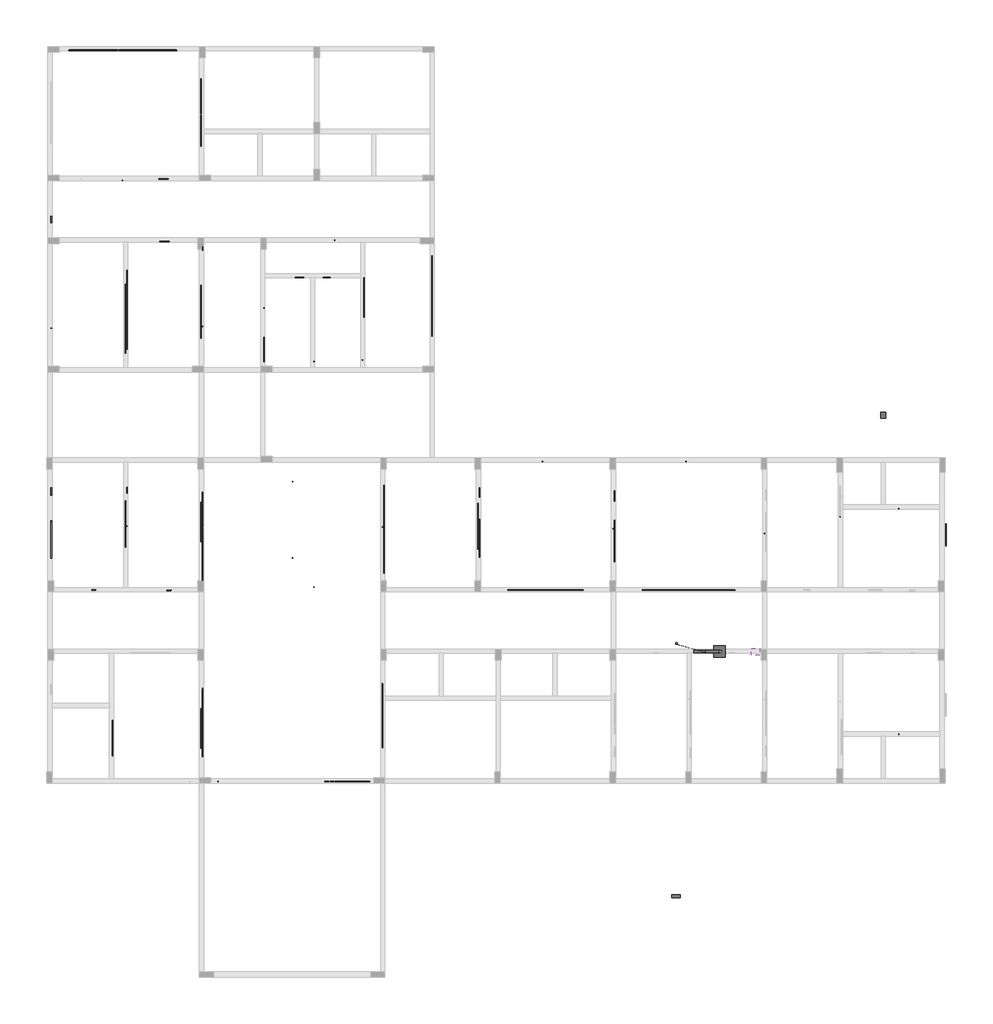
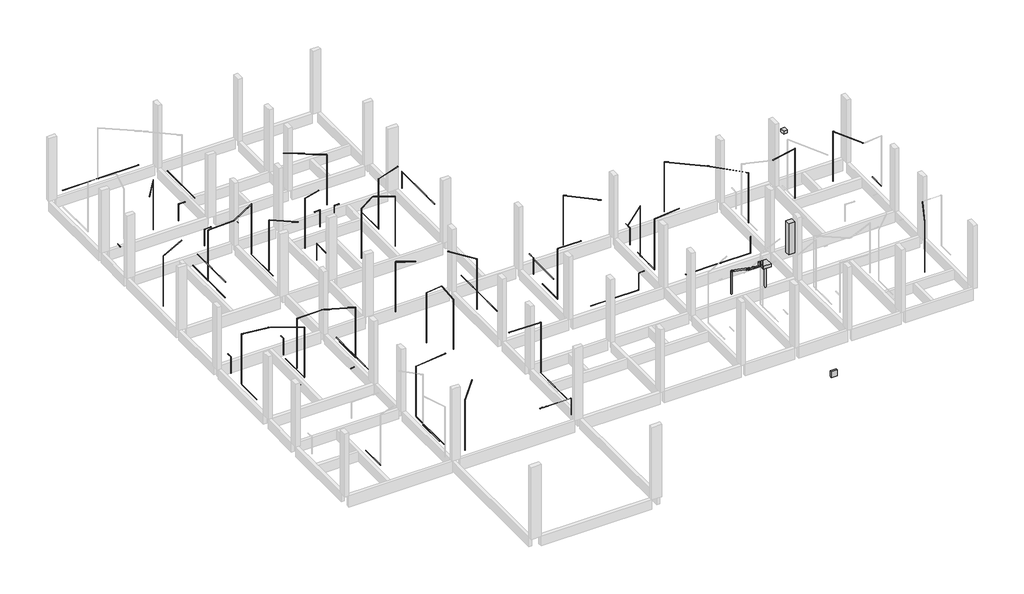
# One storey, part 4 of 4: 88 cable carrier segments, 3 proxies, 1 light fixture.
"""IFC4 building model written with IfcOpenShell, lengths in millimetres."""

from ifc_helpers import new_model, si_unit, origin, place, context, project, spatial, transform, mapped, element, save
from components import al2_al1_c94165ea, cx10_cx23_1a9b8878, qd1_1_qd1_215902_d19d638f, el106_el180_e81ac86b, el107_el181_2fc4830e, el108_el19_bead60b2, el111_el20_c0aca6a8, el112_el21_6166761d, el115_el210_392fa1a4, el116_el212_673bda81, el117_el217_7d4fc841, el119_el218_bef86459, el120_el219_29f7e790, el126_el22_8d276bc7, el127_el220_7d6977bb, el128_el221_22956da2, el130_el222_b0904e21, el136_el23_cfef5686, el137_el232_800fbdec, el138_el233_6ae7f953, el140_el235_33b0d0c4, el146_el237_084dc854, el147_el251_baa3a1ed, el148_el253_b73c1a1b, el149_el254_4117062a, el156_el255_a31909ad, el159_el258_c4cb9bf2, el160_el259_031f7956, el161_el260_be5ef292, el163_el262_63760e00, el164_el27_93b330e2, el165_el278_8a715c29, el166_el28_0edbba57, el167_el33_bbc9469f, el171_el34_def59c32, el183_el342_a1bdfb0c, el184_el343_a1fa0438, el185_el344_8edabc6b, el186_el345_cefd5e52, el187_el347_bbfb40ad, el188_el348_5437adee, el189_el349_dfe210b5, el190_el350_7b75cf25, el192_el352_86c433b4, el197_el36_59999477, el199_el361_34302463, el200_el362_7246fe32, el201_el364_b7d59ef0, el202_el365_db73ed29, el206_el369_4d8f8159, el207_el37_3734109c, el208_el373_a7051450, el209_el374_41653263, el211_el375_b2e2aab6, el223_el38_db877512, el234_el389_417e4c4e, el240_el394_d23c8c79, el241_el395_66daa9e1, el242_el396_39261cf4, el243_el397_140a4e84, el244_el398_b67abc26, el245_el400_6b550e82, el246_el44_65ff09b4, el247_el45_ffb3c4fe, el248_el46_3d92df67, el266_el62_c5358e1e, el267_el63_b8f4bee0, el268_el64_99c406b5, el269_el66_d4b34e1a, el270_el71_9360d52e, el271_el72_d1ce99ee, el272_el74_cc929678, el273_el75_b29c2926, el274_el76_2c5dd4db, el275_el77_9066aecb, el276_el78_759472b1, el277_el79_a86f90d6, el279_el80_b8201097, el280_el86_41604c0a, el281_el87_18f5768c, el282_el89_2b9ef747, el283_el90_8584b409, el284_el91_26a06fd6, el285_el92_8ea3c803, el286_el93_a737a8e3, el287_el94_d5e720ac, el288_el98_92580963, el95_el177_853e290b, el96_el178_324f8018, el97_el179_1835d93a, el99_el18_9592cac1, light_fixture_410ee1c6

model = new_model("IFC4")

# Units and contexts
model_context = context("Model", 3, world=origin())
ifc_project = project(units=[si_unit("LENGTHUNIT", "METRE", prefix="MILLI")], contexts=[model_context])

# Site, building, storey
site = spatial("IfcSite", under=ifc_project)
building = spatial("IfcBuilding", under=site)
storey = spatial("IfcBuildingStorey", under=building, Name="BALDRAME", Elevation=1500.0)

# Proxies
placement = place(None, origin())
al2_al1_shape = al2_al1_c94165ea(model_context)
element("IfcBuildingElementProxy", 1, Name="AL2 : AL1", ObjectType="AL2 : AL1", at=placement, inside=storey, context=model_context, shape_type="MappedRepresentation", body=[
    mapped(al2_al1_shape, transform((0.0, 0.0, 0.0), x_axis=(1.0, 0.0, 0.0), y_axis=(0.0, 1.0, 0.0), z_axis=(0.0, 0.0, 1.0))),
])
cx10_cx23_shape = cx10_cx23_1a9b8878(model_context)
element("IfcBuildingElementProxy", 2, Name="CX10 : CX23", ObjectType="CX10 : CX23", at=placement, inside=storey, context=model_context, shape_type="MappedRepresentation", body=[
    mapped(cx10_cx23_shape, transform((0.0, 0.0, 0.0), x_axis=(1.0, 0.0, 0.0), y_axis=(0.0, 1.0, 0.0), z_axis=(0.0, 0.0, 1.0))),
])
qd1_1_qd1_215902_shape = qd1_1_qd1_215902_d19d638f(model_context)
element("IfcBuildingElementProxy", 3, Name="QD1 1 : QD1 215902", ObjectType="QD1 1 : QD1 215902", at=placement, inside=storey, context=model_context, shape_type="MappedRepresentation", body=[
    mapped(qd1_1_qd1_215902_shape, transform((0.0, 0.0, 0.0), x_axis=(1.0, 0.0, 0.0), y_axis=(0.0, 1.0, 0.0), z_axis=(0.0, 0.0, 1.0))),
])

# Cable carrier segments
el106_el180_shape = el106_el180_e81ac86b(model_context)
element("IfcCableCarrierSegment", 4, ObjectType="El106 : El180", at=placement, inside=storey, context=model_context, shape_type="MappedRepresentation", body=[
    mapped(el106_el180_shape, transform((0.0, 0.0, 0.0), x_axis=(1.0, 0.0, 0.0), y_axis=(0.0, 1.0, 0.0), z_axis=(0.0, 0.0, 1.0))),
])
el107_el181_shape = el107_el181_2fc4830e(model_context)
element("IfcCableCarrierSegment", 5, ObjectType="El107 : El181", at=placement, inside=storey, context=model_context, shape_type="MappedRepresentation", body=[
    mapped(el107_el181_shape, transform((0.0, 0.0, 0.0), x_axis=(1.0, 0.0, 0.0), y_axis=(0.0, 1.0, 0.0), z_axis=(0.0, 0.0, 1.0))),
])
el108_el19_shape = el108_el19_bead60b2(model_context)
element("IfcCableCarrierSegment", 6, ObjectType="El108 : El19", at=placement, inside=storey, context=model_context, shape_type="MappedRepresentation", body=[
    mapped(el108_el19_shape, transform((0.0, 0.0, 0.0), x_axis=(1.0, 0.0, 0.0), y_axis=(0.0, 1.0, 0.0), z_axis=(0.0, 0.0, 1.0))),
])
el111_el20_shape = el111_el20_c0aca6a8(model_context)
element("IfcCableCarrierSegment", 7, ObjectType="El111 : El20", at=placement, inside=storey, context=model_context, shape_type="MappedRepresentation", body=[
    mapped(el111_el20_shape, transform((0.0, 0.0, 0.0), x_axis=(1.0, 0.0, 0.0), y_axis=(0.0, 1.0, 0.0), z_axis=(0.0, 0.0, 1.0))),
])
el112_el21_shape = el112_el21_6166761d(model_context)
element("IfcCableCarrierSegment", 8, ObjectType="El112 : El21", at=placement, inside=storey, context=model_context, shape_type="MappedRepresentation", body=[
    mapped(el112_el21_shape, transform((0.0, 0.0, 0.0), x_axis=(1.0, 0.0, 0.0), y_axis=(0.0, 1.0, 0.0), z_axis=(0.0, 0.0, 1.0))),
])
el115_el210_shape = el115_el210_392fa1a4(model_context)
element("IfcCableCarrierSegment", 9, ObjectType="El115 : El210", at=placement, inside=storey, context=model_context, shape_type="MappedRepresentation", body=[
    mapped(el115_el210_shape, transform((0.0, 0.0, 0.0), x_axis=(1.0, 0.0, 0.0), y_axis=(0.0, 1.0, 0.0), z_axis=(0.0, 0.0, 1.0))),
])
el116_el212_shape = el116_el212_673bda81(model_context)
element("IfcCableCarrierSegment", 10, ObjectType="El116 : El212", at=placement, inside=storey, context=model_context, shape_type="MappedRepresentation", body=[
    mapped(el116_el212_shape, transform((0.0, 0.0, 0.0), x_axis=(1.0, 0.0, 0.0), y_axis=(0.0, 1.0, 0.0), z_axis=(0.0, 0.0, 1.0))),
])
el117_el217_shape = el117_el217_7d4fc841(model_context)
element("IfcCableCarrierSegment", 11, ObjectType="El117 : El217", at=placement, inside=storey, context=model_context, shape_type="MappedRepresentation", body=[
    mapped(el117_el217_shape, transform((0.0, 0.0, 0.0), x_axis=(1.0, 0.0, 0.0), y_axis=(0.0, 1.0, 0.0), z_axis=(0.0, 0.0, 1.0))),
])
el119_el218_shape = el119_el218_bef86459(model_context)
element("IfcCableCarrierSegment", 12, ObjectType="El119 : El218", at=placement, inside=storey, context=model_context, shape_type="MappedRepresentation", body=[
    mapped(el119_el218_shape, transform((0.0, 0.0, 0.0), x_axis=(1.0, 0.0, 0.0), y_axis=(0.0, 1.0, 0.0), z_axis=(0.0, 0.0, 1.0))),
])
el120_el219_shape = el120_el219_29f7e790(model_context)
element("IfcCableCarrierSegment", 13, ObjectType="El120 : El219", at=placement, inside=storey, context=model_context, shape_type="MappedRepresentation", body=[
    mapped(el120_el219_shape, transform((0.0, 0.0, 0.0), x_axis=(1.0, 0.0, 0.0), y_axis=(0.0, 1.0, 0.0), z_axis=(0.0, 0.0, 1.0))),
])
el126_el22_shape = el126_el22_8d276bc7(model_context)
element("IfcCableCarrierSegment", 14, ObjectType="El126 : El22", at=placement, inside=storey, context=model_context, shape_type="MappedRepresentation", body=[
    mapped(el126_el22_shape, transform((0.0, 0.0, 0.0), x_axis=(1.0, 0.0, 0.0), y_axis=(0.0, 1.0, 0.0), z_axis=(0.0, 0.0, 1.0))),
])
el127_el220_shape = el127_el220_7d6977bb(model_context)
element("IfcCableCarrierSegment", 15, ObjectType="El127 : El220", at=placement, inside=storey, context=model_context, shape_type="MappedRepresentation", body=[
    mapped(el127_el220_shape, transform((0.0, 0.0, 0.0), x_axis=(1.0, 0.0, 0.0), y_axis=(0.0, 1.0, 0.0), z_axis=(0.0, 0.0, 1.0))),
])
el128_el221_shape = el128_el221_22956da2(model_context)
element("IfcCableCarrierSegment", 16, ObjectType="El128 : El221", at=placement, inside=storey, context=model_context, shape_type="MappedRepresentation", body=[
    mapped(el128_el221_shape, transform((0.0, 0.0, 0.0), x_axis=(1.0, 0.0, 0.0), y_axis=(0.0, 1.0, 0.0), z_axis=(0.0, 0.0, 1.0))),
])
el130_el222_shape = el130_el222_b0904e21(model_context)
element("IfcCableCarrierSegment", 17, ObjectType="El130 : El222", at=placement, inside=storey, context=model_context, shape_type="MappedRepresentation", body=[
    mapped(el130_el222_shape, transform((0.0, 0.0, 0.0), x_axis=(1.0, 0.0, 0.0), y_axis=(0.0, 1.0, 0.0), z_axis=(0.0, 0.0, 1.0))),
])
el136_el23_shape = el136_el23_cfef5686(model_context)
element("IfcCableCarrierSegment", 18, ObjectType="El136 : El23", at=placement, inside=storey, context=model_context, shape_type="MappedRepresentation", body=[
    mapped(el136_el23_shape, transform((0.0, 0.0, 0.0), x_axis=(1.0, 0.0, 0.0), y_axis=(0.0, 1.0, 0.0), z_axis=(0.0, 0.0, 1.0))),
])
el137_el232_shape = el137_el232_800fbdec(model_context)
element("IfcCableCarrierSegment", 19, ObjectType="El137 : El232", at=placement, inside=storey, context=model_context, shape_type="MappedRepresentation", body=[
    mapped(el137_el232_shape, transform((0.0, 0.0, 0.0), x_axis=(1.0, 0.0, 0.0), y_axis=(0.0, 1.0, 0.0), z_axis=(0.0, 0.0, 1.0))),
])
el138_el233_shape = el138_el233_6ae7f953(model_context)
element("IfcCableCarrierSegment", 20, ObjectType="El138 : El233", at=placement, inside=storey, context=model_context, shape_type="MappedRepresentation", body=[
    mapped(el138_el233_shape, transform((0.0, 0.0, 0.0), x_axis=(1.0, 0.0, 0.0), y_axis=(0.0, 1.0, 0.0), z_axis=(0.0, 0.0, 1.0))),
])
el140_el235_shape = el140_el235_33b0d0c4(model_context)
element("IfcCableCarrierSegment", 21, ObjectType="El140 : El235", at=placement, inside=storey, context=model_context, shape_type="MappedRepresentation", body=[
    mapped(el140_el235_shape, transform((0.0, 0.0, 0.0), x_axis=(1.0, 0.0, 0.0), y_axis=(0.0, 1.0, 0.0), z_axis=(0.0, 0.0, 1.0))),
])
el146_el237_shape = el146_el237_084dc854(model_context)
element("IfcCableCarrierSegment", 22, ObjectType="El146 : El237", at=placement, inside=storey, context=model_context, shape_type="MappedRepresentation", body=[
    mapped(el146_el237_shape, transform((0.0, 0.0, 0.0), x_axis=(1.0, 0.0, 0.0), y_axis=(0.0, 1.0, 0.0), z_axis=(0.0, 0.0, 1.0))),
])
el147_el251_shape = el147_el251_baa3a1ed(model_context)
element("IfcCableCarrierSegment", 23, ObjectType="El147 : El251", at=placement, inside=storey, context=model_context, shape_type="MappedRepresentation", body=[
    mapped(el147_el251_shape, transform((0.0, 0.0, 0.0), x_axis=(1.0, 0.0, 0.0), y_axis=(0.0, 1.0, 0.0), z_axis=(0.0, 0.0, 1.0))),
])
el148_el253_shape = el148_el253_b73c1a1b(model_context)
element("IfcCableCarrierSegment", 24, ObjectType="El148 : El253", at=placement, inside=storey, context=model_context, shape_type="MappedRepresentation", body=[
    mapped(el148_el253_shape, transform((0.0, 0.0, 0.0), x_axis=(1.0, 0.0, 0.0), y_axis=(0.0, 1.0, 0.0), z_axis=(0.0, 0.0, 1.0))),
])
el149_el254_shape = el149_el254_4117062a(model_context)
element("IfcCableCarrierSegment", 25, ObjectType="El149 : El254", at=placement, inside=storey, context=model_context, shape_type="MappedRepresentation", body=[
    mapped(el149_el254_shape, transform((0.0, 0.0, 0.0), x_axis=(1.0, 0.0, 0.0), y_axis=(0.0, 1.0, 0.0), z_axis=(0.0, 0.0, 1.0))),
])
el156_el255_shape = el156_el255_a31909ad(model_context)
element("IfcCableCarrierSegment", 26, ObjectType="El156 : El255", at=placement, inside=storey, context=model_context, shape_type="MappedRepresentation", body=[
    mapped(el156_el255_shape, transform((0.0, 0.0, 0.0), x_axis=(1.0, 0.0, 0.0), y_axis=(0.0, 1.0, 0.0), z_axis=(0.0, 0.0, 1.0))),
])
el159_el258_shape = el159_el258_c4cb9bf2(model_context)
element("IfcCableCarrierSegment", 27, ObjectType="El159 : El258", at=placement, inside=storey, context=model_context, shape_type="MappedRepresentation", body=[
    mapped(el159_el258_shape, transform((0.0, 0.0, 0.0), x_axis=(1.0, 0.0, 0.0), y_axis=(0.0, 1.0, 0.0), z_axis=(0.0, 0.0, 1.0))),
])
el160_el259_shape = el160_el259_031f7956(model_context)
element("IfcCableCarrierSegment", 28, ObjectType="El160 : El259", at=placement, inside=storey, context=model_context, shape_type="MappedRepresentation", body=[
    mapped(el160_el259_shape, transform((0.0, 0.0, 0.0), x_axis=(1.0, 0.0, 0.0), y_axis=(0.0, 1.0, 0.0), z_axis=(0.0, 0.0, 1.0))),
])
el161_el260_shape = el161_el260_be5ef292(model_context)
element("IfcCableCarrierSegment", 29, ObjectType="El161 : El260", at=placement, inside=storey, context=model_context, shape_type="MappedRepresentation", body=[
    mapped(el161_el260_shape, transform((0.0, 0.0, 0.0), x_axis=(1.0, 0.0, 0.0), y_axis=(0.0, 1.0, 0.0), z_axis=(0.0, 0.0, 1.0))),
])
el163_el262_shape = el163_el262_63760e00(model_context)
element("IfcCableCarrierSegment", 30, ObjectType="El163 : El262", at=placement, inside=storey, context=model_context, shape_type="MappedRepresentation", body=[
    mapped(el163_el262_shape, transform((0.0, 0.0, 0.0), x_axis=(1.0, 0.0, 0.0), y_axis=(0.0, 1.0, 0.0), z_axis=(0.0, 0.0, 1.0))),
])
el164_el27_shape = el164_el27_93b330e2(model_context)
element("IfcCableCarrierSegment", 31, ObjectType="El164 : El27", at=placement, inside=storey, context=model_context, shape_type="MappedRepresentation", body=[
    mapped(el164_el27_shape, transform((0.0, 0.0, 0.0), x_axis=(1.0, 0.0, 0.0), y_axis=(0.0, 1.0, 0.0), z_axis=(0.0, 0.0, 1.0))),
])
el165_el278_shape = el165_el278_8a715c29(model_context)
element("IfcCableCarrierSegment", 32, ObjectType="El165 : El278", at=placement, inside=storey, context=model_context, shape_type="MappedRepresentation", body=[
    mapped(el165_el278_shape, transform((0.0, 0.0, 0.0), x_axis=(1.0, 0.0, 0.0), y_axis=(0.0, 1.0, 0.0), z_axis=(0.0, 0.0, 1.0))),
])
el166_el28_shape = el166_el28_0edbba57(model_context)
element("IfcCableCarrierSegment", 33, ObjectType="El166 : El28", at=placement, inside=storey, context=model_context, shape_type="MappedRepresentation", body=[
    mapped(el166_el28_shape, transform((0.0, 0.0, 0.0), x_axis=(1.0, 0.0, 0.0), y_axis=(0.0, 1.0, 0.0), z_axis=(0.0, 0.0, 1.0))),
])
el167_el33_shape = el167_el33_bbc9469f(model_context)
element("IfcCableCarrierSegment", 34, ObjectType="El167 : El33", at=placement, inside=storey, context=model_context, shape_type="MappedRepresentation", body=[
    mapped(el167_el33_shape, transform((0.0, 0.0, 0.0), x_axis=(1.0, 0.0, 0.0), y_axis=(0.0, 1.0, 0.0), z_axis=(0.0, 0.0, 1.0))),
])
el171_el34_shape = el171_el34_def59c32(model_context)
element("IfcCableCarrierSegment", 35, ObjectType="El171 : El34", at=placement, inside=storey, context=model_context, shape_type="MappedRepresentation", body=[
    mapped(el171_el34_shape, transform((0.0, 0.0, 0.0), x_axis=(1.0, 0.0, 0.0), y_axis=(0.0, 1.0, 0.0), z_axis=(0.0, 0.0, 1.0))),
])
el183_el342_shape = el183_el342_a1bdfb0c(model_context)
element("IfcCableCarrierSegment", 36, ObjectType="El183 : El342", at=placement, inside=storey, context=model_context, shape_type="MappedRepresentation", body=[
    mapped(el183_el342_shape, transform((0.0, 0.0, 0.0), x_axis=(1.0, 0.0, 0.0), y_axis=(0.0, 1.0, 0.0), z_axis=(0.0, 0.0, 1.0))),
])
el184_el343_shape = el184_el343_a1fa0438(model_context)
element("IfcCableCarrierSegment", 37, ObjectType="El184 : El343", at=placement, inside=storey, context=model_context, shape_type="MappedRepresentation", body=[
    mapped(el184_el343_shape, transform((0.0, 0.0, 0.0), x_axis=(1.0, 0.0, 0.0), y_axis=(0.0, 1.0, 0.0), z_axis=(0.0, 0.0, 1.0))),
])
el185_el344_shape = el185_el344_8edabc6b(model_context)
element("IfcCableCarrierSegment", 38, ObjectType="El185 : El344", at=placement, inside=storey, context=model_context, shape_type="MappedRepresentation", body=[
    mapped(el185_el344_shape, transform((0.0, 0.0, 0.0), x_axis=(1.0, 0.0, 0.0), y_axis=(0.0, 1.0, 0.0), z_axis=(0.0, 0.0, 1.0))),
])
el186_el345_shape = el186_el345_cefd5e52(model_context)
element("IfcCableCarrierSegment", 39, ObjectType="El186 : El345", at=placement, inside=storey, context=model_context, shape_type="MappedRepresentation", body=[
    mapped(el186_el345_shape, transform((0.0, 0.0, 0.0), x_axis=(1.0, 0.0, 0.0), y_axis=(0.0, 1.0, 0.0), z_axis=(0.0, 0.0, 1.0))),
])
el187_el347_shape = el187_el347_bbfb40ad(model_context)
element("IfcCableCarrierSegment", 40, ObjectType="El187 : El347", at=placement, inside=storey, context=model_context, shape_type="MappedRepresentation", body=[
    mapped(el187_el347_shape, transform((0.0, 0.0, 0.0), x_axis=(1.0, 0.0, 0.0), y_axis=(0.0, 1.0, 0.0), z_axis=(0.0, 0.0, 1.0))),
])
el188_el348_shape = el188_el348_5437adee(model_context)
element("IfcCableCarrierSegment", 41, ObjectType="El188 : El348", at=placement, inside=storey, context=model_context, shape_type="MappedRepresentation", body=[
    mapped(el188_el348_shape, transform((0.0, 0.0, 0.0), x_axis=(1.0, 0.0, 0.0), y_axis=(0.0, 1.0, 0.0), z_axis=(0.0, 0.0, 1.0))),
])
el189_el349_shape = el189_el349_dfe210b5(model_context)
element("IfcCableCarrierSegment", 42, ObjectType="El189 : El349", at=placement, inside=storey, context=model_context, shape_type="MappedRepresentation", body=[
    mapped(el189_el349_shape, transform((0.0, 0.0, 0.0), x_axis=(1.0, 0.0, 0.0), y_axis=(0.0, 1.0, 0.0), z_axis=(0.0, 0.0, 1.0))),
])
el190_el350_shape = el190_el350_7b75cf25(model_context)
element("IfcCableCarrierSegment", 43, ObjectType="El190 : El350", at=placement, inside=storey, context=model_context, shape_type="MappedRepresentation", body=[
    mapped(el190_el350_shape, transform((0.0, 0.0, 0.0), x_axis=(1.0, 0.0, 0.0), y_axis=(0.0, 1.0, 0.0), z_axis=(0.0, 0.0, 1.0))),
])
el192_el352_shape = el192_el352_86c433b4(model_context)
element("IfcCableCarrierSegment", 44, ObjectType="El192 : El352", at=placement, inside=storey, context=model_context, shape_type="MappedRepresentation", body=[
    mapped(el192_el352_shape, transform((0.0, 0.0, 0.0), x_axis=(1.0, 0.0, 0.0), y_axis=(0.0, 1.0, 0.0), z_axis=(0.0, 0.0, 1.0))),
])
el197_el36_shape = el197_el36_59999477(model_context)
element("IfcCableCarrierSegment", 45, ObjectType="El197 : El36", at=placement, inside=storey, context=model_context, shape_type="MappedRepresentation", body=[
    mapped(el197_el36_shape, transform((0.0, 0.0, 0.0), x_axis=(1.0, 0.0, 0.0), y_axis=(0.0, 1.0, 0.0), z_axis=(0.0, 0.0, 1.0))),
])
el199_el361_shape = el199_el361_34302463(model_context)
element("IfcCableCarrierSegment", 46, ObjectType="El199 : El361", at=placement, inside=storey, context=model_context, shape_type="MappedRepresentation", body=[
    mapped(el199_el361_shape, transform((0.0, 0.0, 0.0), x_axis=(1.0, 0.0, 0.0), y_axis=(0.0, 1.0, 0.0), z_axis=(0.0, 0.0, 1.0))),
])
el200_el362_shape = el200_el362_7246fe32(model_context)
element("IfcCableCarrierSegment", 47, ObjectType="El200 : El362", at=placement, inside=storey, context=model_context, shape_type="MappedRepresentation", body=[
    mapped(el200_el362_shape, transform((0.0, 0.0, 0.0), x_axis=(1.0, 0.0, 0.0), y_axis=(0.0, 1.0, 0.0), z_axis=(0.0, 0.0, 1.0))),
])
el201_el364_shape = el201_el364_b7d59ef0(model_context)
element("IfcCableCarrierSegment", 48, ObjectType="El201 : El364", at=placement, inside=storey, context=model_context, shape_type="MappedRepresentation", body=[
    mapped(el201_el364_shape, transform((0.0, 0.0, 0.0), x_axis=(1.0, 0.0, 0.0), y_axis=(0.0, 1.0, 0.0), z_axis=(0.0, 0.0, 1.0))),
])
el202_el365_shape = el202_el365_db73ed29(model_context)
element("IfcCableCarrierSegment", 49, ObjectType="El202 : El365", at=placement, inside=storey, context=model_context, shape_type="MappedRepresentation", body=[
    mapped(el202_el365_shape, transform((0.0, 0.0, 0.0), x_axis=(1.0, 0.0, 0.0), y_axis=(0.0, 1.0, 0.0), z_axis=(0.0, 0.0, 1.0))),
])
el206_el369_shape = el206_el369_4d8f8159(model_context)
element("IfcCableCarrierSegment", 50, ObjectType="El206 : El369", at=placement, inside=storey, context=model_context, shape_type="MappedRepresentation", body=[
    mapped(el206_el369_shape, transform((0.0, 0.0, 0.0), x_axis=(1.0, 0.0, 0.0), y_axis=(0.0, 1.0, 0.0), z_axis=(0.0, 0.0, 1.0))),
])
el207_el37_shape = el207_el37_3734109c(model_context)
element("IfcCableCarrierSegment", 51, ObjectType="El207 : El37", at=placement, inside=storey, context=model_context, shape_type="MappedRepresentation", body=[
    mapped(el207_el37_shape, transform((0.0, 0.0, 0.0), x_axis=(1.0, 0.0, 0.0), y_axis=(0.0, 1.0, 0.0), z_axis=(0.0, 0.0, 1.0))),
])
el208_el373_shape = el208_el373_a7051450(model_context)
element("IfcCableCarrierSegment", 52, ObjectType="El208 : El373", at=placement, inside=storey, context=model_context, shape_type="MappedRepresentation", body=[
    mapped(el208_el373_shape, transform((0.0, 0.0, 0.0), x_axis=(1.0, 0.0, 0.0), y_axis=(0.0, 1.0, 0.0), z_axis=(0.0, 0.0, 1.0))),
])
el209_el374_shape = el209_el374_41653263(model_context)
element("IfcCableCarrierSegment", 53, ObjectType="El209 : El374", at=placement, inside=storey, context=model_context, shape_type="MappedRepresentation", body=[
    mapped(el209_el374_shape, transform((0.0, 0.0, 0.0), x_axis=(1.0, 0.0, 0.0), y_axis=(0.0, 1.0, 0.0), z_axis=(0.0, 0.0, 1.0))),
])
el211_el375_shape = el211_el375_b2e2aab6(model_context)
element("IfcCableCarrierSegment", 54, ObjectType="El211 : El375", at=placement, inside=storey, context=model_context, shape_type="MappedRepresentation", body=[
    mapped(el211_el375_shape, transform((0.0, 0.0, 0.0), x_axis=(1.0, 0.0, 0.0), y_axis=(0.0, 1.0, 0.0), z_axis=(0.0, 0.0, 1.0))),
])
el223_el38_shape = el223_el38_db877512(model_context)
element("IfcCableCarrierSegment", 55, ObjectType="El223 : El38", at=placement, inside=storey, context=model_context, shape_type="MappedRepresentation", body=[
    mapped(el223_el38_shape, transform((0.0, 0.0, 0.0), x_axis=(1.0, 0.0, 0.0), y_axis=(0.0, 1.0, 0.0), z_axis=(0.0, 0.0, 1.0))),
])
el234_el389_shape = el234_el389_417e4c4e(model_context)
element("IfcCableCarrierSegment", 56, ObjectType="El234 : El389", at=placement, inside=storey, context=model_context, shape_type="MappedRepresentation", body=[
    mapped(el234_el389_shape, transform((0.0, 0.0, 0.0), x_axis=(1.0, 0.0, 0.0), y_axis=(0.0, 1.0, 0.0), z_axis=(0.0, 0.0, 1.0))),
])
el240_el394_shape = el240_el394_d23c8c79(model_context)
element("IfcCableCarrierSegment", 57, ObjectType="El240 : El394", at=placement, inside=storey, context=model_context, shape_type="MappedRepresentation", body=[
    mapped(el240_el394_shape, transform((0.0, 0.0, 0.0), x_axis=(1.0, 0.0, 0.0), y_axis=(0.0, 1.0, 0.0), z_axis=(0.0, 0.0, 1.0))),
])
el241_el395_shape = el241_el395_66daa9e1(model_context)
element("IfcCableCarrierSegment", 58, ObjectType="El241 : El395", at=placement, inside=storey, context=model_context, shape_type="MappedRepresentation", body=[
    mapped(el241_el395_shape, transform((0.0, 0.0, 0.0), x_axis=(1.0, 0.0, 0.0), y_axis=(0.0, 1.0, 0.0), z_axis=(0.0, 0.0, 1.0))),
])
el242_el396_shape = el242_el396_39261cf4(model_context)
element("IfcCableCarrierSegment", 59, ObjectType="El242 : El396", at=placement, inside=storey, context=model_context, shape_type="MappedRepresentation", body=[
    mapped(el242_el396_shape, transform((0.0, 0.0, 0.0), x_axis=(1.0, 0.0, 0.0), y_axis=(0.0, 1.0, 0.0), z_axis=(0.0, 0.0, 1.0))),
])
el243_el397_shape = el243_el397_140a4e84(model_context)
element("IfcCableCarrierSegment", 60, ObjectType="El243 : El397", at=placement, inside=storey, context=model_context, shape_type="MappedRepresentation", body=[
    mapped(el243_el397_shape, transform((0.0, 0.0, 0.0), x_axis=(1.0, 0.0, 0.0), y_axis=(0.0, 1.0, 0.0), z_axis=(0.0, 0.0, 1.0))),
])
el244_el398_shape = el244_el398_b67abc26(model_context)
element("IfcCableCarrierSegment", 61, ObjectType="El244 : El398", at=placement, inside=storey, context=model_context, shape_type="MappedRepresentation", body=[
    mapped(el244_el398_shape, transform((0.0, 0.0, 0.0), x_axis=(1.0, 0.0, 0.0), y_axis=(0.0, 1.0, 0.0), z_axis=(0.0, 0.0, 1.0))),
])
el245_el400_shape = el245_el400_6b550e82(model_context)
element("IfcCableCarrierSegment", 62, ObjectType="El245 : El400", at=placement, inside=storey, context=model_context, shape_type="MappedRepresentation", body=[
    mapped(el245_el400_shape, transform((0.0, 0.0, 0.0), x_axis=(1.0, 0.0, 0.0), y_axis=(0.0, 1.0, 0.0), z_axis=(0.0, 0.0, 1.0))),
])
el246_el44_shape = el246_el44_65ff09b4(model_context)
element("IfcCableCarrierSegment", 63, ObjectType="El246 : El44", at=placement, inside=storey, context=model_context, shape_type="MappedRepresentation", body=[
    mapped(el246_el44_shape, transform((0.0, 0.0, 0.0), x_axis=(1.0, 0.0, 0.0), y_axis=(0.0, 1.0, 0.0), z_axis=(0.0, 0.0, 1.0))),
])
el247_el45_shape = el247_el45_ffb3c4fe(model_context)
element("IfcCableCarrierSegment", 64, ObjectType="El247 : El45", at=placement, inside=storey, context=model_context, shape_type="MappedRepresentation", body=[
    mapped(el247_el45_shape, transform((0.0, 0.0, 0.0), x_axis=(1.0, 0.0, 0.0), y_axis=(0.0, 1.0, 0.0), z_axis=(0.0, 0.0, 1.0))),
])
el248_el46_shape = el248_el46_3d92df67(model_context)
element("IfcCableCarrierSegment", 65, ObjectType="El248 : El46", at=placement, inside=storey, context=model_context, shape_type="MappedRepresentation", body=[
    mapped(el248_el46_shape, transform((0.0, 0.0, 0.0), x_axis=(1.0, 0.0, 0.0), y_axis=(0.0, 1.0, 0.0), z_axis=(0.0, 0.0, 1.0))),
])
el266_el62_shape = el266_el62_c5358e1e(model_context)
element("IfcCableCarrierSegment", 66, ObjectType="El266 : El62", at=placement, inside=storey, context=model_context, shape_type="MappedRepresentation", body=[
    mapped(el266_el62_shape, transform((0.0, 0.0, 0.0), x_axis=(1.0, 0.0, 0.0), y_axis=(0.0, 1.0, 0.0), z_axis=(0.0, 0.0, 1.0))),
])
el267_el63_shape = el267_el63_b8f4bee0(model_context)
element("IfcCableCarrierSegment", 67, ObjectType="El267 : El63", at=placement, inside=storey, context=model_context, shape_type="MappedRepresentation", body=[
    mapped(el267_el63_shape, transform((0.0, 0.0, 0.0), x_axis=(1.0, 0.0, 0.0), y_axis=(0.0, 1.0, 0.0), z_axis=(0.0, 0.0, 1.0))),
])
el268_el64_shape = el268_el64_99c406b5(model_context)
element("IfcCableCarrierSegment", 68, ObjectType="El268 : El64", at=placement, inside=storey, context=model_context, shape_type="MappedRepresentation", body=[
    mapped(el268_el64_shape, transform((0.0, 0.0, 0.0), x_axis=(1.0, 0.0, 0.0), y_axis=(0.0, 1.0, 0.0), z_axis=(0.0, 0.0, 1.0))),
])
el269_el66_shape = el269_el66_d4b34e1a(model_context)
element("IfcCableCarrierSegment", 69, ObjectType="El269 : El66", at=placement, inside=storey, context=model_context, shape_type="MappedRepresentation", body=[
    mapped(el269_el66_shape, transform((0.0, 0.0, 0.0), x_axis=(1.0, 0.0, 0.0), y_axis=(0.0, 1.0, 0.0), z_axis=(0.0, 0.0, 1.0))),
])
el270_el71_shape = el270_el71_9360d52e(model_context)
element("IfcCableCarrierSegment", 70, ObjectType="El270 : El71", at=placement, inside=storey, context=model_context, shape_type="MappedRepresentation", body=[
    mapped(el270_el71_shape, transform((0.0, 0.0, 0.0), x_axis=(1.0, 0.0, 0.0), y_axis=(0.0, 1.0, 0.0), z_axis=(0.0, 0.0, 1.0))),
])
el271_el72_shape = el271_el72_d1ce99ee(model_context)
element("IfcCableCarrierSegment", 71, ObjectType="El271 : El72", at=placement, inside=storey, context=model_context, shape_type="MappedRepresentation", body=[
    mapped(el271_el72_shape, transform((0.0, 0.0, 0.0), x_axis=(1.0, 0.0, 0.0), y_axis=(0.0, 1.0, 0.0), z_axis=(0.0, 0.0, 1.0))),
])
el272_el74_shape = el272_el74_cc929678(model_context)
element("IfcCableCarrierSegment", 72, ObjectType="El272 : El74", at=placement, inside=storey, context=model_context, shape_type="MappedRepresentation", body=[
    mapped(el272_el74_shape, transform((0.0, 0.0, 0.0), x_axis=(1.0, 0.0, 0.0), y_axis=(0.0, 1.0, 0.0), z_axis=(0.0, 0.0, 1.0))),
])
el273_el75_shape = el273_el75_b29c2926(model_context)
element("IfcCableCarrierSegment", 73, ObjectType="El273 : El75", at=placement, inside=storey, context=model_context, shape_type="MappedRepresentation", body=[
    mapped(el273_el75_shape, transform((0.0, 0.0, 0.0), x_axis=(1.0, 0.0, 0.0), y_axis=(0.0, 1.0, 0.0), z_axis=(0.0, 0.0, 1.0))),
])
el274_el76_shape = el274_el76_2c5dd4db(model_context)
element("IfcCableCarrierSegment", 74, ObjectType="El274 : El76", at=placement, inside=storey, context=model_context, shape_type="MappedRepresentation", body=[
    mapped(el274_el76_shape, transform((0.0, 0.0, 0.0), x_axis=(1.0, 0.0, 0.0), y_axis=(0.0, 1.0, 0.0), z_axis=(0.0, 0.0, 1.0))),
])
el275_el77_shape = el275_el77_9066aecb(model_context)
element("IfcCableCarrierSegment", 75, ObjectType="El275 : El77", at=placement, inside=storey, context=model_context, shape_type="MappedRepresentation", body=[
    mapped(el275_el77_shape, transform((0.0, 0.0, 0.0), x_axis=(1.0, 0.0, 0.0), y_axis=(0.0, 1.0, 0.0), z_axis=(0.0, 0.0, 1.0))),
])
el276_el78_shape = el276_el78_759472b1(model_context)
element("IfcCableCarrierSegment", 76, ObjectType="El276 : El78", at=placement, inside=storey, context=model_context, shape_type="MappedRepresentation", body=[
    mapped(el276_el78_shape, transform((0.0, 0.0, 0.0), x_axis=(1.0, 0.0, 0.0), y_axis=(0.0, 1.0, 0.0), z_axis=(0.0, 0.0, 1.0))),
])
el277_el79_shape = el277_el79_a86f90d6(model_context)
element("IfcCableCarrierSegment", 77, ObjectType="El277 : El79", at=placement, inside=storey, context=model_context, shape_type="MappedRepresentation", body=[
    mapped(el277_el79_shape, transform((0.0, 0.0, 0.0), x_axis=(1.0, 0.0, 0.0), y_axis=(0.0, 1.0, 0.0), z_axis=(0.0, 0.0, 1.0))),
])
el279_el80_shape = el279_el80_b8201097(model_context)
element("IfcCableCarrierSegment", 78, ObjectType="El279 : El80", at=placement, inside=storey, context=model_context, shape_type="MappedRepresentation", body=[
    mapped(el279_el80_shape, transform((0.0, 0.0, 0.0), x_axis=(1.0, 0.0, 0.0), y_axis=(0.0, 1.0, 0.0), z_axis=(0.0, 0.0, 1.0))),
])
el280_el86_shape = el280_el86_41604c0a(model_context)
element("IfcCableCarrierSegment", 79, ObjectType="El280 : El86", at=placement, inside=storey, context=model_context, shape_type="MappedRepresentation", body=[
    mapped(el280_el86_shape, transform((0.0, 0.0, 0.0), x_axis=(1.0, 0.0, 0.0), y_axis=(0.0, 1.0, 0.0), z_axis=(0.0, 0.0, 1.0))),
])
el281_el87_shape = el281_el87_18f5768c(model_context)
element("IfcCableCarrierSegment", 80, ObjectType="El281 : El87", at=placement, inside=storey, context=model_context, shape_type="MappedRepresentation", body=[
    mapped(el281_el87_shape, transform((0.0, 0.0, 0.0), x_axis=(1.0, 0.0, 0.0), y_axis=(0.0, 1.0, 0.0), z_axis=(0.0, 0.0, 1.0))),
])
el282_el89_shape = el282_el89_2b9ef747(model_context)
element("IfcCableCarrierSegment", 81, ObjectType="El282 : El89", at=placement, inside=storey, context=model_context, shape_type="MappedRepresentation", body=[
    mapped(el282_el89_shape, transform((0.0, 0.0, 0.0), x_axis=(1.0, 0.0, 0.0), y_axis=(0.0, 1.0, 0.0), z_axis=(0.0, 0.0, 1.0))),
])
el283_el90_shape = el283_el90_8584b409(model_context)
element("IfcCableCarrierSegment", 82, ObjectType="El283 : El90", at=placement, inside=storey, context=model_context, shape_type="MappedRepresentation", body=[
    mapped(el283_el90_shape, transform((0.0, 0.0, 0.0), x_axis=(1.0, 0.0, 0.0), y_axis=(0.0, 1.0, 0.0), z_axis=(0.0, 0.0, 1.0))),
])
el284_el91_shape = el284_el91_26a06fd6(model_context)
element("IfcCableCarrierSegment", 83, ObjectType="El284 : El91", at=placement, inside=storey, context=model_context, shape_type="MappedRepresentation", body=[
    mapped(el284_el91_shape, transform((0.0, 0.0, 0.0), x_axis=(1.0, 0.0, 0.0), y_axis=(0.0, 1.0, 0.0), z_axis=(0.0, 0.0, 1.0))),
])
el285_el92_shape = el285_el92_8ea3c803(model_context)
element("IfcCableCarrierSegment", 84, ObjectType="El285 : El92", at=placement, inside=storey, context=model_context, shape_type="MappedRepresentation", body=[
    mapped(el285_el92_shape, transform((0.0, 0.0, 0.0), x_axis=(1.0, 0.0, 0.0), y_axis=(0.0, 1.0, 0.0), z_axis=(0.0, 0.0, 1.0))),
])
el286_el93_shape = el286_el93_a737a8e3(model_context)
element("IfcCableCarrierSegment", 85, ObjectType="El286 : El93", at=placement, inside=storey, context=model_context, shape_type="MappedRepresentation", body=[
    mapped(el286_el93_shape, transform((0.0, 0.0, 0.0), x_axis=(1.0, 0.0, 0.0), y_axis=(0.0, 1.0, 0.0), z_axis=(0.0, 0.0, 1.0))),
])
el287_el94_shape = el287_el94_d5e720ac(model_context)
element("IfcCableCarrierSegment", 86, ObjectType="El287 : El94", at=placement, inside=storey, context=model_context, shape_type="MappedRepresentation", body=[
    mapped(el287_el94_shape, transform((0.0, 0.0, 0.0), x_axis=(1.0, 0.0, 0.0), y_axis=(0.0, 1.0, 0.0), z_axis=(0.0, 0.0, 1.0))),
])
el288_el98_shape = el288_el98_92580963(model_context)
element("IfcCableCarrierSegment", 87, ObjectType="El288 : El98", at=placement, inside=storey, context=model_context, shape_type="MappedRepresentation", body=[
    mapped(el288_el98_shape, transform((0.0, 0.0, 0.0), x_axis=(1.0, 0.0, 0.0), y_axis=(0.0, 1.0, 0.0), z_axis=(0.0, 0.0, 1.0))),
])
el95_el177_shape = el95_el177_853e290b(model_context)
element("IfcCableCarrierSegment", 88, ObjectType="El95 : El177", at=placement, inside=storey, context=model_context, shape_type="MappedRepresentation", body=[
    mapped(el95_el177_shape, transform((0.0, 0.0, 0.0), x_axis=(1.0, 0.0, 0.0), y_axis=(0.0, 1.0, 0.0), z_axis=(0.0, 0.0, 1.0))),
])
el96_el178_shape = el96_el178_324f8018(model_context)
element("IfcCableCarrierSegment", 89, ObjectType="El96 : El178", at=placement, inside=storey, context=model_context, shape_type="MappedRepresentation", body=[
    mapped(el96_el178_shape, transform((0.0, 0.0, 0.0), x_axis=(1.0, 0.0, 0.0), y_axis=(0.0, 1.0, 0.0), z_axis=(0.0, 0.0, 1.0))),
])
el97_el179_shape = el97_el179_1835d93a(model_context)
element("IfcCableCarrierSegment", 90, ObjectType="El97 : El179", at=placement, inside=storey, context=model_context, shape_type="MappedRepresentation", body=[
    mapped(el97_el179_shape, transform((0.0, 0.0, 0.0), x_axis=(1.0, 0.0, 0.0), y_axis=(0.0, 1.0, 0.0), z_axis=(0.0, 0.0, 1.0))),
])
el99_el18_shape = el99_el18_9592cac1(model_context)
element("IfcCableCarrierSegment", 91, ObjectType="El99 : El18", at=placement, inside=storey, context=model_context, shape_type="MappedRepresentation", body=[
    mapped(el99_el18_shape, transform((0.0, 0.0, 0.0), x_axis=(1.0, 0.0, 0.0), y_axis=(0.0, 1.0, 0.0), z_axis=(0.0, 0.0, 1.0))),
])

# Light fixture
light_fixture_shape = light_fixture_410ee1c6(model_context)
element("IfcLightFixture", 92, ObjectType=" 218 :  212248", at=placement, inside=storey, context=model_context, shape_type="MappedRepresentation", body=[
    mapped(light_fixture_shape, transform((0.0, 0.0, 0.0), x_axis=(1.0, 0.0, 0.0), y_axis=(0.0, 1.0, 0.0), z_axis=(0.0, 0.0, 1.0))),
])

save(model, "model.ifc")
